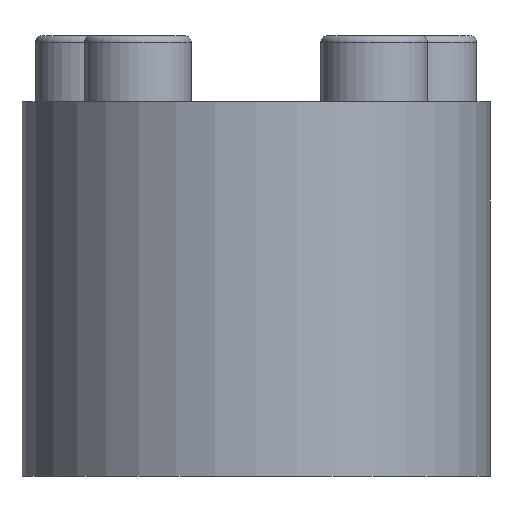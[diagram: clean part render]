
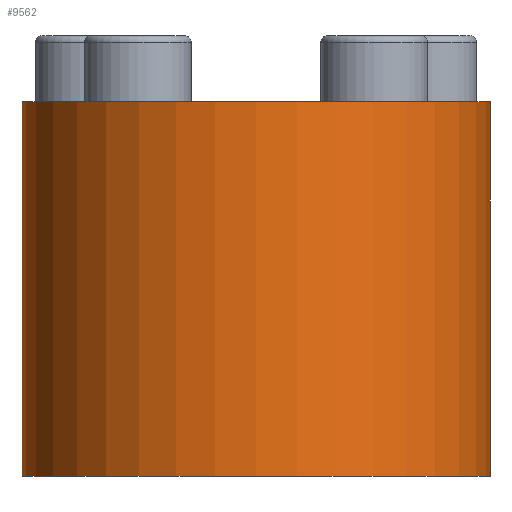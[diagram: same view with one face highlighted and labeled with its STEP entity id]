
A CAD part, left-side view. The second image highlights one B-rep face of the part: STEP entity #9562.
In plain terms, the highlighted cylindrical face has radius 35 mm (diameter 70 mm), a partial arc.
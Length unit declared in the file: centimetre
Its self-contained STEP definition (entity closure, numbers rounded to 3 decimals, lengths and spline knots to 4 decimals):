
#780=CYLINDRICAL_SURFACE('',#10120,3.5);
#1392=FACE_OUTER_BOUND('',#1973,.T.);
#1973=EDGE_LOOP('',(#7191,#7192,#7193,#7194));
#2692=LINE('',#13690,#3558);
#2693=LINE('',#13694,#3559);
#3558=VECTOR('',#10882,5.6);
#3559=VECTOR('',#10887,5.6);
#4161=CIRCLE('',#10022,3.5);
#4179=CIRCLE('',#10121,3.5);
#4204=VERTEX_POINT('',#11976);
#4205=VERTEX_POINT('',#11978);
#4672=VERTEX_POINT('',#13688);
#4673=VERTEX_POINT('',#13692);
#5122=EDGE_CURVE('',#4204,#4205,#4161,.T.);
#5644=EDGE_CURVE('',#4672,#4205,#2692,.T.);
#5645=EDGE_CURVE('',#4672,#4673,#4179,.T.);
#5646=EDGE_CURVE('',#4673,#4204,#2693,.T.);
#7191=ORIENTED_EDGE('',*,*,#5645,.F.);
#7192=ORIENTED_EDGE('',*,*,#5644,.T.);
#7193=ORIENTED_EDGE('',*,*,#5122,.F.);
#7194=ORIENTED_EDGE('',*,*,#5646,.F.);
#9562=ADVANCED_FACE('',(#1392),#780,.T.);
#10022=AXIS2_PLACEMENT_3D('',#11979,#10412,#10413);
#10120=AXIS2_PLACEMENT_3D('',#13691,#10883,#10884);
#10121=AXIS2_PLACEMENT_3D('',#13693,#10885,#10886);
#10412=DIRECTION('center_axis',(0.,0.,
1.));
#10413=DIRECTION('ref_axis',(0.,1.,0.));
#10882=DIRECTION('',(0.,0.,1.));
#10883=DIRECTION('center_axis',(0.,0.,1.));
#10884=DIRECTION('ref_axis',(0.,-1.,0.));
#10885=DIRECTION('center_axis',(0.,0.,-1.));
#10886=DIRECTION('ref_axis',(0.,-1.,0.));
#10887=DIRECTION('',(0.,0.,1.));
#11976=CARTESIAN_POINT('',(-5.3,3.5,5.6));
#11978=CARTESIAN_POINT('',(-5.3,-3.5,5.6));
#11979=CARTESIAN_POINT('Origin',(-5.3,0.,5.6));
#13688=CARTESIAN_POINT('',(-5.3,-3.5,0.));
#13690=CARTESIAN_POINT('',(-5.3,-3.5,0.));
#13691=CARTESIAN_POINT('Origin',(-5.3,0.,0.));
#13692=CARTESIAN_POINT('',(-5.3,3.5,0.));
#13693=CARTESIAN_POINT('Origin',(-5.3,0.,0.));
#13694=CARTESIAN_POINT('',(-5.3,3.5,0.));
